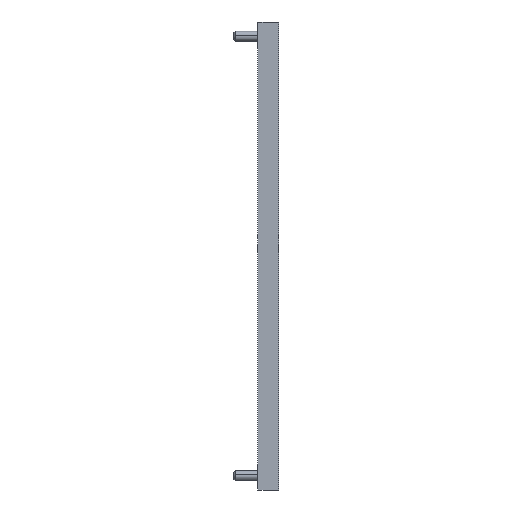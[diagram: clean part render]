
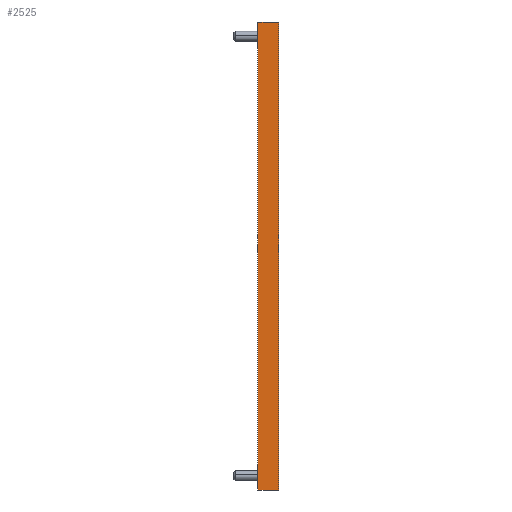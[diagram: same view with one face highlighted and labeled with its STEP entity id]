
A CAD part, left-side view. The second image highlights one B-rep face of the part: STEP entity #2525.
In plain terms, the highlighted planar face has unit normal (-1, 0, 0).
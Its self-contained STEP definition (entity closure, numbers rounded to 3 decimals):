
#33 = LINE ( 'NONE', #1217, #724 ) ;
#59 = VECTOR ( 'NONE', #2365, 1000. ) ;
#103 = DIRECTION ( 'NONE',  ( 0., -1., 0. ) ) ;
#119 = EDGE_LOOP ( 'NONE', ( #750, #1167, #2099, #1610, #310, #2795, #1296, #758 ) ) ;
#145 = CARTESIAN_POINT ( 'NONE',  ( -8., 12.5, 279. ) ) ;
#158 = VERTEX_POINT ( 'NONE', #478 ) ;
#216 = VERTEX_POINT ( 'NONE', #3167 ) ;
#310 = ORIENTED_EDGE ( 'NONE', *, *, #1309, .T. ) ;
#348 = CARTESIAN_POINT ( 'NONE',  ( -8., 3.2, 0. ) ) ;
#350 = VERTEX_POINT ( 'NONE', #2648 ) ;
#355 = DIRECTION ( 'NONE',  ( 0., -1., 0. ) ) ;
#451 = LINE ( 'NONE', #1943, #1038 ) ;
#464 = AXIS2_PLACEMENT_3D ( 'NONE', #3014, #3029, #971 ) ;
#478 = CARTESIAN_POINT ( 'NONE',  ( -8., 0., 0. ) ) ;
#505 = CARTESIAN_POINT ( 'NONE',  ( -8., 0., 279. ) ) ;
#586 = LINE ( 'NONE', #2583, #2725 ) ;
#640 = CARTESIAN_POINT ( 'NONE',  ( -8., 12.5, 279. ) ) ;
#691 = EDGE_CURVE ( 'NONE', #3063, #2748, #2348, .T. ) ;
#724 = VECTOR ( 'NONE', #2976, 1000. ) ;
#750 = ORIENTED_EDGE ( 'NONE', *, *, #1502, .F. ) ;
#758 = ORIENTED_EDGE ( 'NONE', *, *, #773, .F. ) ;
#773 = EDGE_CURVE ( 'NONE', #2763, #216, #2628, .T. ) ;
#807 = CARTESIAN_POINT ( 'NONE',  ( -8., 3.2, 279. ) ) ;
#849 = CARTESIAN_POINT ( 'NONE',  ( -8., 0., 0. ) ) ;
#971 = DIRECTION ( 'NONE',  ( 0., 0., 1. ) ) ;
#988 = FACE_OUTER_BOUND ( 'NONE', #119, .T. ) ;
#1031 = VECTOR ( 'NONE', #2304, 1000. ) ;
#1034 = VERTEX_POINT ( 'NONE', #2124 ) ;
#1038 = VECTOR ( 'NONE', #2727, 1000. ) ;
#1077 = CARTESIAN_POINT ( 'NONE',  ( -8., 12.5, 279. ) ) ;
#1167 = ORIENTED_EDGE ( 'NONE', *, *, #2243, .T. ) ;
#1217 = CARTESIAN_POINT ( 'NONE',  ( -8., 0., 279. ) ) ;
#1276 = VERTEX_POINT ( 'NONE', #807 ) ;
#1296 = ORIENTED_EDGE ( 'NONE', *, *, #3007, .T. ) ;
#1309 = EDGE_CURVE ( 'NONE', #158, #1034, #3024, .T. ) ;
#1502 = EDGE_CURVE ( 'NONE', #350, #2763, #1883, .T. ) ;
#1597 = EDGE_CURVE ( 'NONE', #1034, #1276, #2204, .T. ) ;
#1610 = ORIENTED_EDGE ( 'NONE', *, *, #2057, .T. ) ;
#1883 = LINE ( 'NONE', #145, #2516 ) ;
#1896 = CARTESIAN_POINT ( 'NONE',  ( -8., 9.3, 0. ) ) ;
#1899 = DIRECTION ( 'NONE',  ( 0., 0., 1. ) ) ;
#1943 = CARTESIAN_POINT ( 'NONE',  ( -8., 0., 0. ) ) ;
#2057 = EDGE_CURVE ( 'NONE', #2748, #158, #451, .T. ) ;
#2099 = ORIENTED_EDGE ( 'NONE', *, *, #691, .T. ) ;
#2124 = CARTESIAN_POINT ( 'NONE',  ( -8., 0., 279. ) ) ;
#2204 = LINE ( 'NONE', #2747, #2722 ) ;
#2243 = EDGE_CURVE ( 'NONE', #350, #3063, #586, .T. ) ;
#2290 = PLANE ( 'NONE',  #464 ) ;
#2304 = DIRECTION ( 'NONE',  ( 0., 0., 1. ) ) ;
#2348 = LINE ( 'NONE', #849, #59 ) ;
#2365 = DIRECTION ( 'NONE',  ( 0., -1., 0. ) ) ;
#2516 = VECTOR ( 'NONE', #1899, 1000. ) ;
#2525 = ADVANCED_FACE ( 'NONE', ( #988 ), #2290, .T. ) ;
#2583 = CARTESIAN_POINT ( 'NONE',  ( -8., 0., 0. ) ) ;
#2628 = LINE ( 'NONE', #1077, #2998 ) ;
#2648 = CARTESIAN_POINT ( 'NONE',  ( -8., 12.5, 0. ) ) ;
#2722 = VECTOR ( 'NONE', #2927, 1000. ) ;
#2725 = VECTOR ( 'NONE', #103, 1000. ) ;
#2727 = DIRECTION ( 'NONE',  ( 0., -1., 0. ) ) ;
#2747 = CARTESIAN_POINT ( 'NONE',  ( -8., 0., 279. ) ) ;
#2748 = VERTEX_POINT ( 'NONE', #348 ) ;
#2763 = VERTEX_POINT ( 'NONE', #640 ) ;
#2795 = ORIENTED_EDGE ( 'NONE', *, *, #1597, .T. ) ;
#2927 = DIRECTION ( 'NONE',  ( 0., 1., 0. ) ) ;
#2976 = DIRECTION ( 'NONE',  ( 0., 1., 0. ) ) ;
#2998 = VECTOR ( 'NONE', #355, 1000. ) ;
#3007 = EDGE_CURVE ( 'NONE', #1276, #216, #33, .T. ) ;
#3014 = CARTESIAN_POINT ( 'NONE',  ( -8., 0., 279. ) ) ;
#3024 = LINE ( 'NONE', #505, #1031 ) ;
#3029 = DIRECTION ( 'NONE',  ( -1., 0., 0. ) ) ;
#3063 = VERTEX_POINT ( 'NONE', #1896 ) ;
#3167 = CARTESIAN_POINT ( 'NONE',  ( -8., 9.3, 279. ) ) ;
